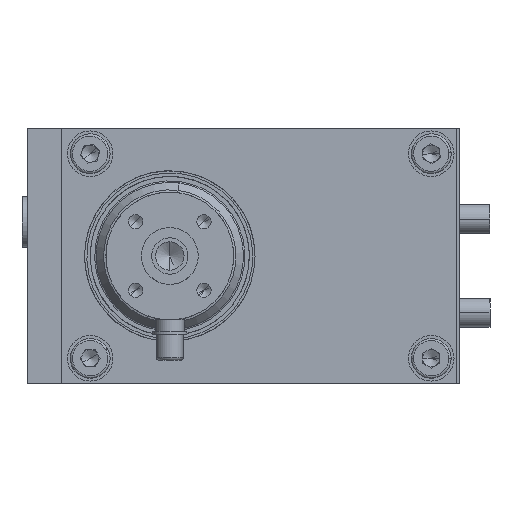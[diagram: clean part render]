
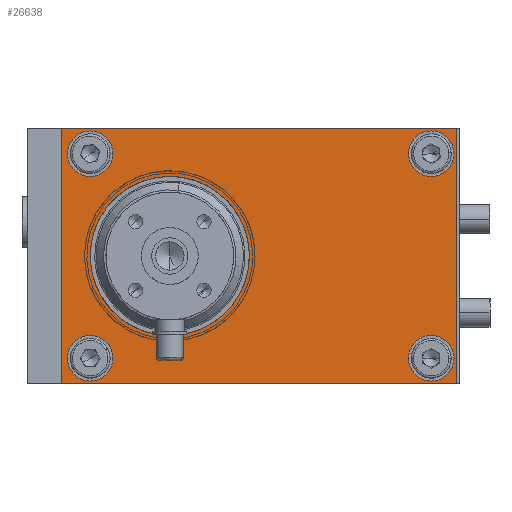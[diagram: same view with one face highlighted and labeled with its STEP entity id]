
A CAD part, left-side view. The second image highlights one B-rep face of the part: STEP entity #26638.
In plain terms, the highlighted planar face has unit normal (-1, 0, 0).
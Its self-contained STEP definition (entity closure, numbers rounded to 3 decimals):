
#690 = AXIS2_PLACEMENT_3D ( 'NONE', #14599, #37319, #17861 ) ;
#743 = ORIENTED_EDGE ( 'NONE', *, *, #23917, .F. ) ;
#819 = FACE_BOUND ( 'NONE', #2312, .T. ) ;
#1062 = DIRECTION ( 'NONE',  ( -1., 0., 0. ) ) ;
#1884 = LINE ( 'NONE', #39817, #33458 ) ;
#2312 = EDGE_LOOP ( 'NONE', ( #9579, #28595 ) ) ;
#2435 = CARTESIAN_POINT ( 'NONE',  ( -88.219, -55.712, 35.441 ) ) ;
#2460 = VERTEX_POINT ( 'NONE', #28090 ) ;
#2550 = CARTESIAN_POINT ( 'NONE',  ( -88.219, 8.788, 75.941 ) ) ;
#3050 = VECTOR ( 'NONE', #42197, 1000. ) ;
#3095 = CIRCLE ( 'NONE', #15695, 4. ) ;
#3713 = EDGE_CURVE ( 'NONE', #26275, #5477, #13205, .T. ) ;
#3782 = CIRCLE ( 'NONE', #27297, 4. ) ;
#4373 = PLANE ( 'NONE',  #36712 ) ;
#4382 = AXIS2_PLACEMENT_3D ( 'NONE', #7702, #30475, #10986 ) ;
#4491 = EDGE_CURVE ( 'NONE', #38135, #8800, #31980, .T. ) ;
#4721 = DIRECTION ( 'NONE',  ( -1., 0., 0. ) ) ;
#5477 = VERTEX_POINT ( 'NONE', #34495 ) ;
#5674 = ORIENTED_EDGE ( 'NONE', *, *, #3713, .T. ) ;
#5829 = DIRECTION ( 'NONE',  ( 0., 0., 1. ) ) ;
#5902 = CIRCLE ( 'NONE', #13053, 4. ) ;
#5909 = CARTESIAN_POINT ( 'NONE',  ( -88.219, -55.712, 80.441 ) ) ;
#6171 = DIRECTION ( 'NONE',  ( 0., 1., 0. ) ) ;
#6286 = EDGE_LOOP ( 'NONE', ( #25019, #34474 ) ) ;
#6351 = LINE ( 'NONE', #35014, #21626 ) ;
#6782 = EDGE_LOOP ( 'NONE', ( #38631, #24647 ) ) ;
#6855 = CARTESIAN_POINT ( 'NONE',  ( -88.219, -5.212, 57.941 ) ) ;
#7029 = CARTESIAN_POINT ( 'NONE',  ( -88.219, -51.212, 43.941 ) ) ;
#7524 = CARTESIAN_POINT ( 'NONE',  ( -88.219, -51.212, 35.941 ) ) ;
#7663 = DIRECTION ( 'NONE',  ( 0., 0., -1. ) ) ;
#7702 = CARTESIAN_POINT ( 'NONE',  ( -88.219, 8.788, 39.941 ) ) ;
#8067 = EDGE_LOOP ( 'NONE', ( #743, #42102 ) ) ;
#8477 = FACE_BOUND ( 'NONE', #8067, .T. ) ;
#8800 = VERTEX_POINT ( 'NONE', #7029 ) ;
#9533 = CARTESIAN_POINT ( 'NONE',  ( -88.219, 8.788, 79.941 ) ) ;
#9579 = ORIENTED_EDGE ( 'NONE', *, *, #27881, .F. ) ;
#9626 = CARTESIAN_POINT ( 'NONE',  ( -88.219, -51.212, 75.941 ) ) ;
#10137 = DIRECTION ( 'NONE',  ( 0., 0., 1. ) ) ;
#10266 = VERTEX_POINT ( 'NONE', #14682 ) ;
#10986 = DIRECTION ( 'NONE',  ( 0., 0., 1. ) ) ;
#11566 = EDGE_CURVE ( 'NONE', #35460, #26275, #6351, .T. ) ;
#11881 = CARTESIAN_POINT ( 'NONE',  ( -88.219, -51.212, 79.941 ) ) ;
#12114 = VERTEX_POINT ( 'NONE', #9533 ) ;
#12139 = ORIENTED_EDGE ( 'NONE', *, *, #41232, .F. ) ;
#12856 = DIRECTION ( 'NONE',  ( 0., 0., 1. ) ) ;
#12878 = CIRCLE ( 'NONE', #36424, 4. ) ;
#13053 = AXIS2_PLACEMENT_3D ( 'NONE', #9626, #32354, #12856 ) ;
#13205 = LINE ( 'NONE', #32724, #38082 ) ;
#14532 = AXIS2_PLACEMENT_3D ( 'NONE', #15760, #38454, #19021 ) ;
#14599 = CARTESIAN_POINT ( 'NONE',  ( -88.219, -5.212, 57.941 ) ) ;
#14682 = CARTESIAN_POINT ( 'NONE',  ( -88.219, -5.212, 43.941 ) ) ;
#15695 = AXIS2_PLACEMENT_3D ( 'NONE', #35849, #16394, #39104 ) ;
#15760 = CARTESIAN_POINT ( 'NONE',  ( -88.219, 8.788, 75.941 ) ) ;
#16132 = FACE_BOUND ( 'NONE', #6286, .T. ) ;
#16239 = ORIENTED_EDGE ( 'NONE', *, *, #11566, .T. ) ;
#16394 = DIRECTION ( 'NONE',  ( -1., 0., 0. ) ) ;
#17098 = DIRECTION ( 'NONE',  ( 0., 0., 1. ) ) ;
#17725 = EDGE_CURVE ( 'NONE', #12114, #2460, #37728, .T. ) ;
#17861 = DIRECTION ( 'NONE',  ( 0., 0., 1. ) ) ;
#18137 = FACE_BOUND ( 'NONE', #6782, .T. ) ;
#18163 = EDGE_CURVE ( 'NONE', #2460, #12114, #18925, .T. ) ;
#18176 = CARTESIAN_POINT ( 'NONE',  ( -88.219, 8.788, 39.941 ) ) ;
#18925 = CIRCLE ( 'NONE', #14532, 4. ) ;
#19021 = DIRECTION ( 'NONE',  ( 0., 0., 1. ) ) ;
#19475 = CARTESIAN_POINT ( 'NONE',  ( -88.219, -55.712, 35.441 ) ) ;
#19573 = ORIENTED_EDGE ( 'NONE', *, *, #24434, .T. ) ;
#19753 = AXIS2_PLACEMENT_3D ( 'NONE', #24270, #4721, #27546 ) ;
#20611 = CARTESIAN_POINT ( 'NONE',  ( -88.219, -51.212, 75.941 ) ) ;
#20854 = CIRCLE ( 'NONE', #4382, 4. ) ;
#21477 = DIRECTION ( 'NONE',  ( 0., 0., 1. ) ) ;
#21626 = VECTOR ( 'NONE', #6171, 1000. ) ;
#22249 = EDGE_CURVE ( 'NONE', #29965, #26137, #12878, .T. ) ;
#22284 = CARTESIAN_POINT ( 'NONE',  ( -88.219, 8.788, 35.941 ) ) ;
#23894 = DIRECTION ( 'NONE',  ( 0., 0., 1. ) ) ;
#23917 = EDGE_CURVE ( 'NONE', #8800, #38135, #3095, .T. ) ;
#24270 = CARTESIAN_POINT ( 'NONE',  ( -88.219, -51.212, 39.941 ) ) ;
#24434 = EDGE_CURVE ( 'NONE', #5477, #34591, #30052, .T. ) ;
#24647 = ORIENTED_EDGE ( 'NONE', *, *, #18163, .F. ) ;
#24787 = FACE_OUTER_BOUND ( 'NONE', #37622, .T. ) ;
#25019 = ORIENTED_EDGE ( 'NONE', *, *, #37434, .F. ) ;
#25363 = DIRECTION ( 'NONE',  ( -1., 0., 0. ) ) ;
#26137 = VERTEX_POINT ( 'NONE', #36010 ) ;
#26275 = VERTEX_POINT ( 'NONE', #40654 ) ;
#26638 = ADVANCED_FACE ( 'NONE', ( #8477, #18137, #819, #33407, #24787, #16132 ), #4373, .F. ) ;
#27186 = DIRECTION ( 'NONE',  ( 1., 0., 0. ) ) ;
#27297 = AXIS2_PLACEMENT_3D ( 'NONE', #20611, #1062, #23894 ) ;
#27326 = CIRCLE ( 'NONE', #30143, 14. ) ;
#27546 = DIRECTION ( 'NONE',  ( 0., 0., 1. ) ) ;
#27881 = EDGE_CURVE ( 'NONE', #35331, #31041, #5902, .T. ) ;
#28090 = CARTESIAN_POINT ( 'NONE',  ( -88.219, 8.788, 71.941 ) ) ;
#28172 = ORIENTED_EDGE ( 'NONE', *, *, #39023, .T. ) ;
#28547 = AXIS2_PLACEMENT_3D ( 'NONE', #2550, #25363, #5829 ) ;
#28595 = ORIENTED_EDGE ( 'NONE', *, *, #28977, .F. ) ;
#28977 = EDGE_CURVE ( 'NONE', #31041, #35331, #3782, .T. ) ;
#29644 = DIRECTION ( 'NONE',  ( -1., 0., 0. ) ) ;
#29965 = VERTEX_POINT ( 'NONE', #22284 ) ;
#30052 = LINE ( 'NONE', #19475, #3050 ) ;
#30143 = AXIS2_PLACEMENT_3D ( 'NONE', #6855, #29644, #10137 ) ;
#30475 = DIRECTION ( 'NONE',  ( -1., 0., 0. ) ) ;
#31041 = VERTEX_POINT ( 'NONE', #31137 ) ;
#31137 = CARTESIAN_POINT ( 'NONE',  ( -88.219, -51.212, 71.941 ) ) ;
#31980 = CIRCLE ( 'NONE', #19753, 4. ) ;
#32146 = CARTESIAN_POINT ( 'NONE',  ( -88.219, -5.212, 71.941 ) ) ;
#32354 = DIRECTION ( 'NONE',  ( -1., 0., 0. ) ) ;
#32593 = DIRECTION ( 'NONE',  ( 0., 0., -1. ) ) ;
#32724 = CARTESIAN_POINT ( 'NONE',  ( -88.219, 13.788, 35.441 ) ) ;
#32821 = EDGE_LOOP ( 'NONE', ( #12139, #32943 ) ) ;
#32943 = ORIENTED_EDGE ( 'NONE', *, *, #42051, .F. ) ;
#33262 = CIRCLE ( 'NONE', #690, 14. ) ;
#33407 = FACE_BOUND ( 'NONE', #32821, .T. ) ;
#33458 = VECTOR ( 'NONE', #17098, 1000. ) ;
#33539 = CARTESIAN_POINT ( 'NONE',  ( -88.219, -55.712, 35.441 ) ) ;
#34474 = ORIENTED_EDGE ( 'NONE', *, *, #22249, .F. ) ;
#34495 = CARTESIAN_POINT ( 'NONE',  ( -88.219, 13.788, 35.441 ) ) ;
#34591 = VERTEX_POINT ( 'NONE', #2435 ) ;
#35014 = CARTESIAN_POINT ( 'NONE',  ( -88.219, 13.788, 80.441 ) ) ;
#35331 = VERTEX_POINT ( 'NONE', #11881 ) ;
#35460 = VERTEX_POINT ( 'NONE', #5909 ) ;
#35849 = CARTESIAN_POINT ( 'NONE',  ( -88.219, -51.212, 39.941 ) ) ;
#36010 = CARTESIAN_POINT ( 'NONE',  ( -88.219, 8.788, 43.941 ) ) ;
#36424 = AXIS2_PLACEMENT_3D ( 'NONE', #18176, #40885, #21477 ) ;
#36712 = AXIS2_PLACEMENT_3D ( 'NONE', #33539, #27186, #7663 ) ;
#37319 = DIRECTION ( 'NONE',  ( -1., 0., 0. ) ) ;
#37434 = EDGE_CURVE ( 'NONE', #26137, #29965, #20854, .T. ) ;
#37622 = EDGE_LOOP ( 'NONE', ( #28172, #16239, #5674, #19573 ) ) ;
#37728 = CIRCLE ( 'NONE', #28547, 4. ) ;
#37745 = VERTEX_POINT ( 'NONE', #32146 ) ;
#38082 = VECTOR ( 'NONE', #32593, 1000. ) ;
#38135 = VERTEX_POINT ( 'NONE', #7524 ) ;
#38454 = DIRECTION ( 'NONE',  ( -1., 0., 0. ) ) ;
#38631 = ORIENTED_EDGE ( 'NONE', *, *, #17725, .F. ) ;
#39023 = EDGE_CURVE ( 'NONE', #34591, #35460, #1884, .T. ) ;
#39104 = DIRECTION ( 'NONE',  ( 0., 0., 1. ) ) ;
#39817 = CARTESIAN_POINT ( 'NONE',  ( -88.219, -55.712, 80.441 ) ) ;
#40654 = CARTESIAN_POINT ( 'NONE',  ( -88.219, 13.788, 80.441 ) ) ;
#40885 = DIRECTION ( 'NONE',  ( -1., 0., 0. ) ) ;
#41232 = EDGE_CURVE ( 'NONE', #37745, #10266, #27326, .T. ) ;
#42051 = EDGE_CURVE ( 'NONE', #10266, #37745, #33262, .T. ) ;
#42102 = ORIENTED_EDGE ( 'NONE', *, *, #4491, .F. ) ;
#42197 = DIRECTION ( 'NONE',  ( 0., -1., 0. ) ) ;
